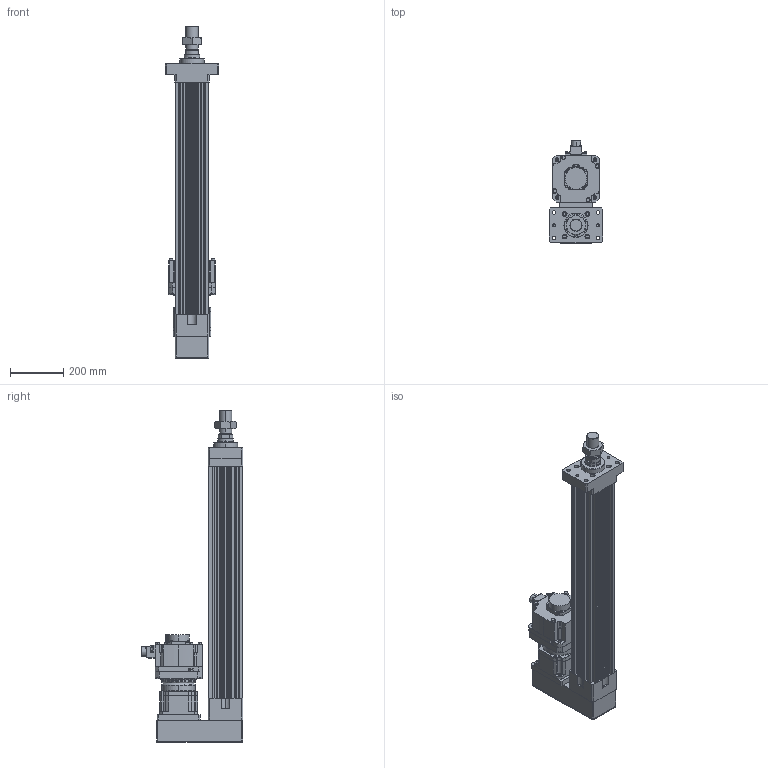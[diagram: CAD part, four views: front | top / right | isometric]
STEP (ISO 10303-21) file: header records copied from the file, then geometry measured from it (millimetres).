
FILE_DESCRIPTION (( 'STEP AP203' ), '1' );
FILE_NAME ('HES130FS(HS)-P650-W020G00-M-FMA.STEP', '2023-01-30T06:44:39', ( 'tms' ), ( '' ), 'SwSTEP 2.0', 'SolidWorks 2013', '' );
FILE_SCHEMA (( 'CONFIG_CONTROL_DESIGN' ));
Length unit declared in the file: millimetre
Products named in the file (9): HES130FS(HS)-P650-W020G00-M-FMA; HG-SR202; P1301500001; AB1421; AB142-003[HG-SR352]; M45X1.5P; HES130-P650-G142-FMA; P0403500801; HES130 ROD M ST650
Assembly tree (8 placements, depth 3):
  HES130FS(HS)-P650-W020G00-M-FMA
    HES130-P650-G142-FMA
    HES130 ROD M ST650
    M45X1.5P
    AB142-003[HG-SR352]
      AB1421
      P1301500001
      P0403500801
    HG-SR202
Bounding box: 200 x 381.85 x 1244 mm (x, y, z)
Volume: 15700847 mm3; surface area: 1899800.1 mm2
Topology: 4 solids, 18 shells, 1401 faces, 3660 edges, 2370 vertices
Faces by surface type: cylinder 643, plane 530, cone 146, bspline 76, torus 6
Entity records: 52014 total; most frequent: CARTESIAN_POINT 16222, DIRECTION 7460, ORIENTED_EDGE 7222, EDGE_CURVE 3633, AXIS2_PLACEMENT_3D 2825, VERTEX_POINT 2370, LINE 1810, VECTOR 1810
